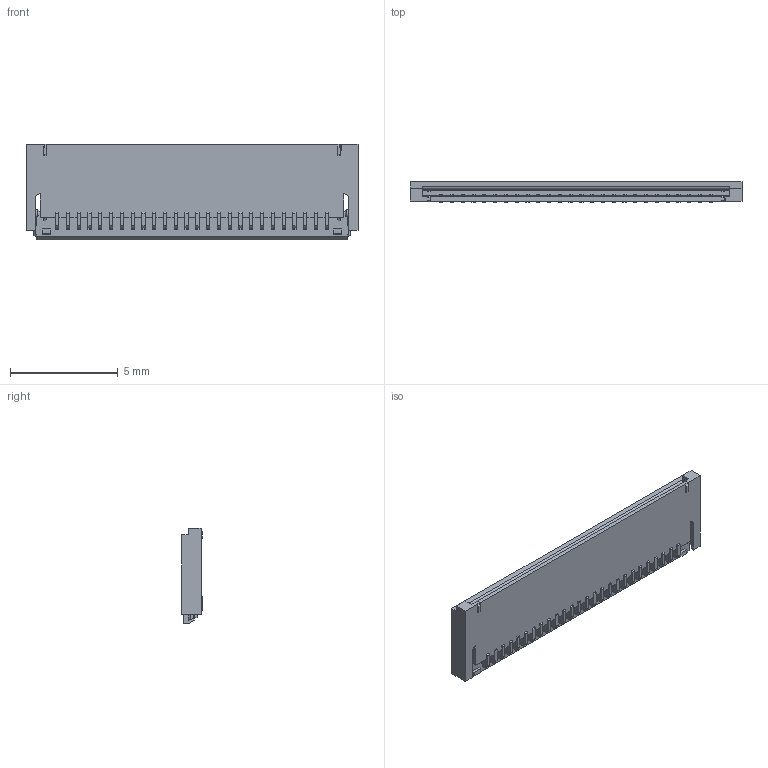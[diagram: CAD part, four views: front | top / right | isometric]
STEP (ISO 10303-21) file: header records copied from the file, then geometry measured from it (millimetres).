
FILE_DESCRIPTION (( 'STEP AP203' ), '1' );
FILE_NAME ('FF14A-26-R11DL-B-3H(Lock).STEP', '2012-04-18T02:21:38', ( '' ), ( '' ), 'SwSTEP 2.0', 'SolidWorks 2011', '' );
FILE_SCHEMA (( 'CONFIG_CONTROL_DESIGN' ));
Products named in the file (1): FF14A-26-R11DL-B-3H(Lock)
Bounding box: 15.4 x 0.95 x 4.43 mm (x, y, z)
Volume: 39.9 mm3; surface area: 265.5 mm2
Topology: 1 solids, 1 shells, 1204 faces, 3681 edges, 2451 vertices
Faces by surface type: plane 833, cylinder 368, cone 3
Entity records: 41347 total; most frequent: CARTESIAN_POINT 7628, ORIENTED_EDGE 7362, DIRECTION 6766, EDGE_CURVE 3681, LINE 2824, VECTOR 2824, VERTEX_POINT 2451, AXIS2_PLACEMENT_3D 1971
